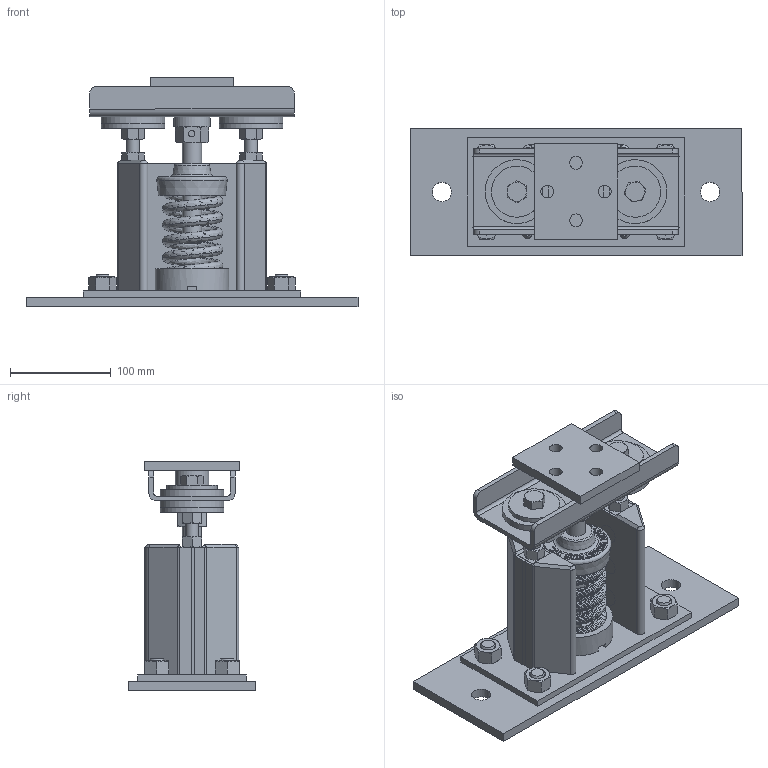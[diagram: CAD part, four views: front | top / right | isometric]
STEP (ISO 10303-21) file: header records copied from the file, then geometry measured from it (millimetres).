
FILE_DESCRIPTION(/* description */ (''),/* implementation_level */ '2;1');
FILE_NAME(/* name */ 'C:\2014_Work\Designs\SLR-SLRSO ASSEMBLIES\SLRSO-B\SLRSOEBPB.stp',/* time_stamp */ '2014-05-15T12:13:09-04:00',/* author */ ('mleuck'),/* organization */ (''),/* preprocessor_version */ 'ST-DEVELOPER v15.2',/* originating_system */ 'Autodesk Inventor 2014',/* authorisation */ '');
FILE_SCHEMA (('AUTOMOTIVE_DESIGN { 1 0 10303 214 3 1 1 }'));
Length unit declared in the file: inch
Products named in the file (39): SLRS-B BACK STANCHION (D-4257-4); SLRS-B BASE PLATE (D-4257-4); SLRS-B SIDE STANCHION (D-4257-4); SLRS-B STANCHION SQUARE BAR (D-4257-4); SLRS-B PART A (D-4257-4); SLRS-B PART B (D-4257-4); SLRS-B PART B WELD (D-4257-4); SLRS-B PART A WELD (D-4257-4); SLRS-B PART A MIRRORED (D-4257-4); SLRS-B PART B MIRRORED (D-4257-4); SLRS-B PART B WELD MIRRORED (D-4257-4); SLRS-B PART A WELD MIRRORED (D-4257-4); SLRS-B VERTICAL WELD (D-4257-4); SLRS-B PLUG WELD (D-4257-4); SLRS-B BASE ASSEMBLY (D-4257-4); SLRS-B TOP CHANNEL (D-4258-2); SLRS-B BOLTING PLATE (D-4258-2); SLRS-B TOP CHANNEL LOWER PIPE (D-4258-2); ANSI - 1 x 0.133 - 1.0625; SLRS-B TOP CHANNEL ASSEMBLY (D-4258-2).ipt; SLRS-B RESTRAINING BOLT (D-4259-3); SLRS-B RESTRAINING WASHER (D-4259-3); SLRS-B TOP CHANNEL GROMMET (A-27423); SLRS-B SPRING TOP CASTING (A-27424-1); SLRS-B LOWER CUP NEOPRENE (A-27429-1); SLRS-B LOWER CUP WASHER (A-27429-1); SLRS-B LOWER CUP ASSEMBLY (A-27429-1).ipt; SLRS-B ADJUSTMENT BOLT STUD (D-4259-3); ANSI B18.2.2 - 3_4 - 10(2); SLRS-B ADJUSTMENT BOLT PIN (D-4259-3); SLRS-B ADJUSTMENT BOLT ASSEMBLY (D-4259-3); SLRS-B RESTRAINING WASHER 2 (D-4259-3); ANSI B18.2.2 - 1_2 - 13(2); SLRS-B FULL ASSEMBLY WOS WOP (D-4259-3); A-31407-1 SLRS-B, SLRSO-B IBC 2006 EBP; ANSI B18.2.2 - 5_8 - 18(2); ANSI B18.3 - 5_8-18 UNF - 1.25(30); SPRING B-450 FH (RED) (REVIT INTPOLY) (as 1000); SLRSOEBP-B (WOS)
Bounding box: 330.2 x 127 x 228.6 mm (x, y, z)
Volume: 1374348.3 mm3; surface area: 602498.1 mm2
Topology: 54 solids, 55 shells, 1006 faces, 2351 edges, 1486 vertices
Faces by surface type: plane 559, cone 171, bspline 137, cylinder 131, torus 8
Full cylindrical faces by diameter (mm): 6.35 x4, 10.592 x4, 12.7 x9, 14.287 x6, 14.351 x4, 15.875 x8, 16.307 x1, 19.05 x26, 20.637 x1, 23.812 x1, 25.4 x2, 26.645 x1, 28.245 x4, 31.75 x4, 33.401 x1, 36.512 x1, 50.8 x2, 60.325 x1, 63.5 x8, 73.025 x1
Entity records: 32452 total; most frequent: CARTESIAN_POINT 15712, ORIENTED_EDGE 3348, DIRECTION 2966, EDGE_CURVE 1674, VERTEX_POINT 1122, LINE 1024, VECTOR 1024, AXIS2_PLACEMENT_3D 971
